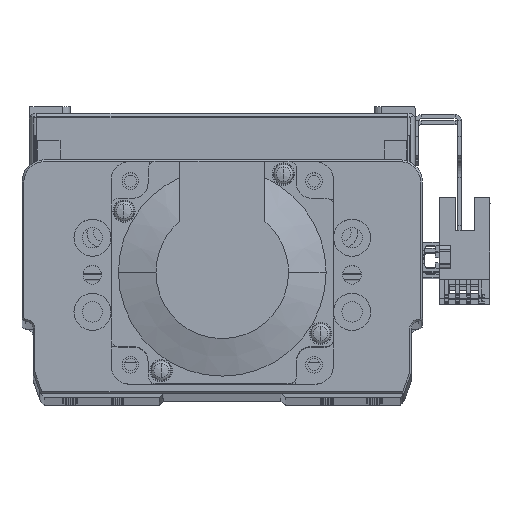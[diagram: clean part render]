
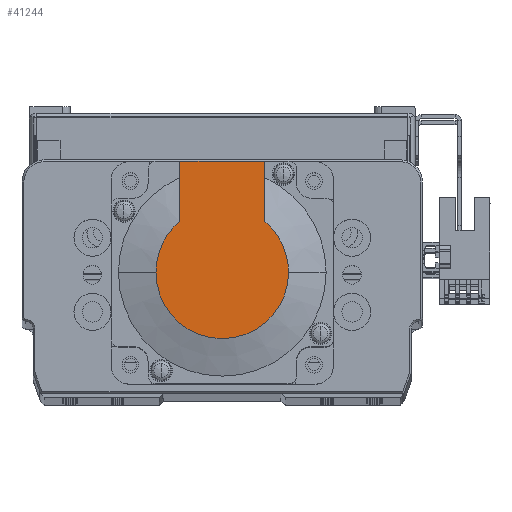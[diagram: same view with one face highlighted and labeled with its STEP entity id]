
A CAD part, top view. The second image highlights one B-rep face of the part: STEP entity #41244.
In plain terms, the highlighted planar face has unit normal (0, 0, 1) as drawn and (-1, 0, 0) by its records, which use the part's own axes.
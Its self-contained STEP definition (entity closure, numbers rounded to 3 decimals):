
#180 = EDGE_CURVE ( 'NONE', #6207, #30509, #12594, .T. ) ;
#993 = PLANE ( 'NONE',  #15054 ) ;
#1198 = AXIS2_PLACEMENT_3D ( 'NONE', #47015, #23318, #37516 ) ;
#4787 = DIRECTION ( 'NONE',  ( 0., -1., 0. ) ) ;
#5714 = DIRECTION ( 'NONE',  ( 0., 0., -1. ) ) ;
#6207 = VERTEX_POINT ( 'NONE', #41840 ) ;
#6488 = DIRECTION ( 'NONE',  ( -1., 0., 0. ) ) ;
#7885 = ORIENTED_EDGE ( 'NONE', *, *, #31775, .T. ) ;
#8094 = CARTESIAN_POINT ( 'NONE',  ( -99., -8.941, -11.45 ) ) ;
#10872 = DIRECTION ( 'NONE',  ( 0., 0., 1. ) ) ;
#12359 = CIRCLE ( 'NONE', #1198, 17.881 ) ;
#12594 = CIRCLE ( 'NONE', #37781, 17.881 ) ;
#12647 = VECTOR ( 'NONE', #4787, 1000. ) ;
#15001 = CIRCLE ( 'NONE', #27311, 17.881 ) ;
#15054 = AXIS2_PLACEMENT_3D ( 'NONE', #57409, #6488, #10872 ) ;
#15722 = CARTESIAN_POINT ( 'NONE',  ( -99., 0., 17.881 ) ) ;
#18798 = CARTESIAN_POINT ( 'NONE',  ( -99., 30., -11.45 ) ) ;
#19077 = EDGE_LOOP ( 'NONE', ( #22620, #33371, #19704, #7885, #45157, #58621 ) ) ;
#19372 = CARTESIAN_POINT ( 'NONE',  ( -99., 0., 0. ) ) ;
#19501 = EDGE_CURVE ( 'NONE', #28858, #28508, #22922, .T. ) ;
#19704 = ORIENTED_EDGE ( 'NONE', *, *, #180, .T. ) ;
#20180 = DIRECTION ( 'NONE',  ( -1., 0., 0. ) ) ;
#22511 = VERTEX_POINT ( 'NONE', #34562 ) ;
#22620 = ORIENTED_EDGE ( 'NONE', *, *, #19501, .T. ) ;
#22756 = CARTESIAN_POINT ( 'NONE',  ( -99., 30., 25. ) ) ;
#22922 = LINE ( 'NONE', #8094, #12647 ) ;
#23318 = DIRECTION ( 'NONE',  ( -1., 0., 0. ) ) ;
#24768 = EDGE_CURVE ( 'NONE', #28508, #6207, #15001, .T. ) ;
#27311 = AXIS2_PLACEMENT_3D ( 'NONE', #42300, #37344, #60993 ) ;
#28508 = VERTEX_POINT ( 'NONE', #36790 ) ;
#28858 = VERTEX_POINT ( 'NONE', #18798 ) ;
#29742 = CARTESIAN_POINT ( 'NONE',  ( -99., 30., 11.45 ) ) ;
#30214 = VECTOR ( 'NONE', #52207, 1000. ) ;
#30509 = VERTEX_POINT ( 'NONE', #15722 ) ;
#31227 = VERTEX_POINT ( 'NONE', #29742 ) ;
#31775 = EDGE_CURVE ( 'NONE', #30509, #22511, #12359, .T. ) ;
#32055 = EDGE_CURVE ( 'NONE', #31227, #22511, #35111, .T. ) ;
#33282 = LINE ( 'NONE', #22756, #30214 ) ;
#33371 = ORIENTED_EDGE ( 'NONE', *, *, #24768, .T. ) ;
#34562 = CARTESIAN_POINT ( 'NONE',  ( -99., 13.735, 11.45 ) ) ;
#35111 = LINE ( 'NONE', #57694, #41808 ) ;
#36790 = CARTESIAN_POINT ( 'NONE',  ( -99., 13.735, -11.45 ) ) ;
#37344 = DIRECTION ( 'NONE',  ( -1., 0., 0. ) ) ;
#37516 = DIRECTION ( 'NONE',  ( 0., 0., -1. ) ) ;
#37781 = AXIS2_PLACEMENT_3D ( 'NONE', #19372, #20180, #5714 ) ;
#39347 = DIRECTION ( 'NONE',  ( 0., -1., 0. ) ) ;
#41244 = ADVANCED_FACE ( 'NONE', ( #54037 ), #993, .T. ) ;
#41808 = VECTOR ( 'NONE', #39347, 1000. ) ;
#41840 = CARTESIAN_POINT ( 'NONE',  ( -99., 0., -17.881 ) ) ;
#42300 = CARTESIAN_POINT ( 'NONE',  ( -99., 0., 0. ) ) ;
#45157 = ORIENTED_EDGE ( 'NONE', *, *, #32055, .F. ) ;
#47015 = CARTESIAN_POINT ( 'NONE',  ( -99., 0., 0. ) ) ;
#52207 = DIRECTION ( 'NONE',  ( 0., 0., 1. ) ) ;
#54037 = FACE_OUTER_BOUND ( 'NONE', #19077, .T. ) ;
#57409 = CARTESIAN_POINT ( 'NONE',  ( -99., -8.941, 0. ) ) ;
#57694 = CARTESIAN_POINT ( 'NONE',  ( -99., 0., 11.45 ) ) ;
#58621 = ORIENTED_EDGE ( 'NONE', *, *, #59882, .F. ) ;
#59882 = EDGE_CURVE ( 'NONE', #28858, #31227, #33282, .T. ) ;
#60993 = DIRECTION ( 'NONE',  ( 0., 0., -1. ) ) ;
